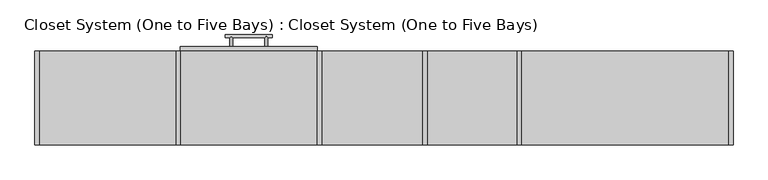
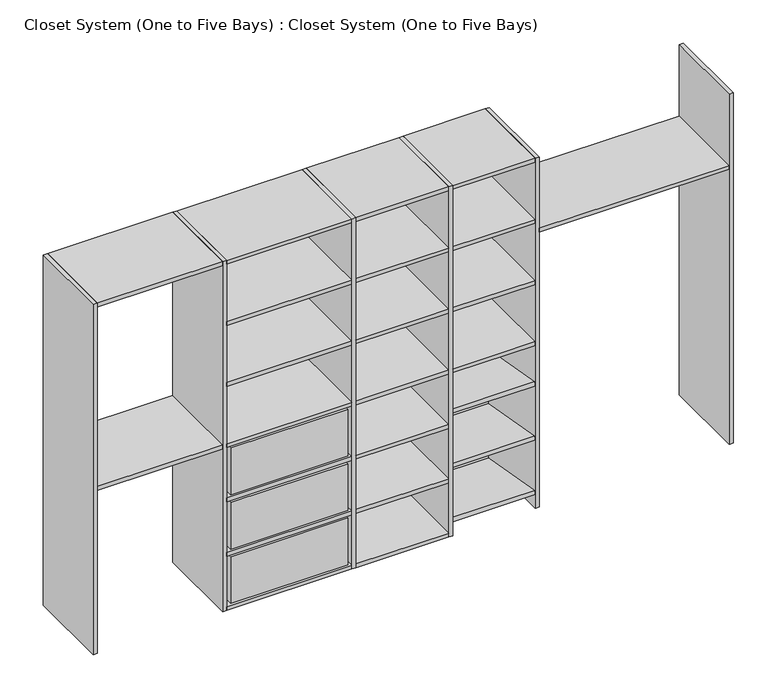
"""IFC4 building model written with IfcOpenShell, lengths in millimetres: furniture geometry, Closet System (One to Five Bays) : Closet System (One to Five Bays)."""

from ifc_helpers import new_model, si_unit, point, frame, frame_2d, origin, place, context, project, spatial, polyline, circle_curve, ellipse_curve, trimmed, segment, composite_curve, outline, extrude, faceted_brep, source, transform, mapped, element, save
from ifc_brep_helpers import plane_surface, cylinder_surface, advanced_brep


def closet_system_one_to_five_bays_closet_system_one_to_five_eccb5896(model_context):
    return source(origin(), model_context, "Body", "SolidModel", [
        extrude(outline(polyline([(3016.25, 0.0), (2997.2, 0.0), (2997.2, 406.4), (3016.25, 406.4), (3016.25, 0.0)])), frame((0.0, 0.0, 82.55), z_axis=(0.0, 0.0, 1.0), x_axis=(1.0, 0.0, 0.0)), (0.0, 0.0, 1.0), 1746.25),
        extrude(outline(polyline([(2101.85, 0.0), (2082.8, 0.0), (2082.8, 406.4), (2101.85, 406.4), (2101.85, 0.0)])), frame((0.0, 0.0, 82.55), z_axis=(0.0, 0.0, 1.0), x_axis=(1.0, 0.0, 0.0)), (0.0, 0.0, 1.0), 1746.25),
        extrude(outline(polyline([(1695.45, 0.0), (1676.4, 0.0), (1676.4, 406.4), (1695.45, 406.4), (1695.45, 0.0)])), frame((0.0, 0.0, 82.55), z_axis=(0.0, 0.0, 1.0), x_axis=(1.0, 0.0, 0.0)), (0.0, 0.0, 1.0), 1746.25),
        extrude(outline(polyline([(1238.25, 0.0), (1219.2, 0.0), (1219.2, 406.4), (1238.25, 406.4), (1238.25, 0.0)])), frame((0.0, 0.0, 82.55), z_axis=(0.0, 0.0, 1.0), x_axis=(1.0, 0.0, 0.0)), (0.0, 0.0, 1.0), 1746.25),
        extrude(outline(polyline([(628.65, 0.0), (609.6, 0.0), (609.6, 406.4), (628.65, 406.4), (628.65, 0.0)])), frame((0.0, 0.0, 82.55), z_axis=(0.0, 0.0, 1.0), x_axis=(1.0, 0.0, 0.0)), (0.0, 0.0, 1.0), 1746.25),
        extrude(outline(polyline([(19.05, 0.0), (0.0, 0.0), (0.0, 406.4), (19.05, 406.4), (19.05, 0.0)])), frame((0.0, 0.0, 82.55), z_axis=(0.0, 0.0, 1.0), x_axis=(1.0, 0.0, 0.0)), (0.0, 0.0, 1.0), 1746.25),
        faceted_brep([(1695.45, 0.0, 1200.15), (2082.8, 0.0, 1200.15), (2082.8, 0.0, 1219.2), (1695.45, 0.0, 1219.2), (1695.45, 387.35, 1200.15), (1695.45, 406.4, 1200.15), (2082.8, 406.4, 1200.15), (2082.8, 387.35, 1200.15), (1695.45, 387.35, 1219.2), (1695.45, 406.4, 1219.2), (2082.8, 406.4, 1219.2), (2082.8, 387.35, 1219.2)], [[[0, 1, 2, 3]], [[0, 4, 5, 6, 7, 1]], [[5, 4, 0, 3, 8, 9]], [[1, 7, 6, 10, 11, 2]], [[9, 10, 6, 5]], [[9, 8, 3, 2, 11, 10]]]),
        faceted_brep([(1695.45, 406.4, 1504.95), (1695.45, 387.35, 1504.95), (1695.45, 0.0, 1504.95), (1695.45, 0.0, 1524.0), (1695.45, 387.35, 1524.0), (1695.45, 406.4, 1524.0), (2082.8, 0.0, 1504.95), (2082.8, 387.35, 1504.95), (2082.8, 406.4, 1504.95), (2082.8, 406.4, 1524.0), (2082.8, 387.35, 1524.0), (2082.8, 0.0, 1524.0)], [[[0, 1, 2, 3, 4, 5]], [[6, 7, 8, 9, 10, 11]], [[2, 1, 0, 8, 7, 6]], [[5, 9, 8, 0]], [[5, 4, 3, 11, 10, 9]], [[2, 6, 11, 3]]]),
        extrude(outline(polyline([(406.4, 686.951959), (395.3733407, 624.4166667), (0.0, 694.1316541), (3.3079978, 712.8922418), (379.9207508, 646.4852521), (387.6394123, 690.2599568), (406.4, 686.951959)])), frame((1695.45, 0.0, 0.0), z_axis=(1.0, 0.0, 0.0), x_axis=(0.0, 1.0, 0.0)), (0.0, 0.0, 1.0), 387.35),
        extrude(outline(polyline([(406.4, 416.0186256), (395.3733407, 353.4833333), (0.0, 423.1983208), (3.3079978, 441.9589084), (379.9207508, 375.5519188), (387.6394123, 419.3266234), (406.4, 416.0186256)])), frame((1695.45, 0.0, 0.0), z_axis=(1.0, 0.0, 0.0), x_axis=(0.0, 1.0, 0.0)), (0.0, 0.0, 1.0), 387.35),
        extrude(outline(polyline([(406.4, 145.0852923), (395.3733407, 82.55), (0.0, 152.2649874), (3.3079978, 171.0255751), (379.9207508, 104.6185855), (387.6394123, 148.3932901), (406.4, 145.0852923)])), frame((1695.45, 0.0, 0.0), z_axis=(1.0, 0.0, 0.0), x_axis=(0.0, 1.0, 0.0)), (0.0, 0.0, 1.0), 387.35),
        extrude(outline(polyline([(2082.8, 406.4), (2082.8, 0.0), (1695.45, 0.0), (1695.45, 406.4), (2082.8, 406.4)])), frame((0.0, 0.0, 895.35), z_axis=(0.0, 0.0, 1.0), x_axis=(1.0, 0.0, 0.0)), (0.0, 0.0, 1.0), 19.05),
        extrude(outline(polyline([(2082.8, 406.4), (2082.8, 0.0), (1695.45, 0.0), (1695.45, 406.4), (2082.8, 406.4)])), frame((0.0, 0.0, 1809.75), z_axis=(0.0, 0.0, 1.0), x_axis=(1.0, 0.0, 0.0)), (0.0, 0.0, 1.0), 19.05),
        extrude(outline(composite_curve([segment(trimmed(circle_curve(frame_2d((304.8, 1384.3)), 12.7), [point((317.5, 1384.3))], [point((292.1, 1384.3))], False, "CARTESIAN"), True, "CONTINUOUS"), segment(trimmed(circle_curve(frame_2d((304.8, 1384.3)), 12.7), [point((292.1, 1384.3))], [point((317.5, 1384.3))], False, "CARTESIAN"), True, "CONTINUOUS")], self_intersect=False)), frame((2101.85, 0.0, 0.0), z_axis=(1.0, 0.0, 0.0), x_axis=(0.0, 1.0, 0.0)), (0.0, 0.0, 1.0), 895.35),
        extrude(outline(polyline([(2997.2, 406.4), (2997.2, 0.0), (2101.85, 0.0), (2101.85, 406.4), (2997.2, 406.4)])), frame((0.0, 0.0, 1454.15), z_axis=(0.0, 0.0, 1.0), x_axis=(1.0, 0.0, 0.0)), (0.0, 0.0, 1.0), 19.05),
        faceted_brep([(1238.25, 406.4, 1200.15), (1238.25, 387.35, 1200.15), (1238.25, 0.0, 1200.15), (1238.25, 0.0, 1219.2), (1238.25, 387.35, 1219.2), (1238.25, 406.4, 1219.2), (1676.4, 0.0, 1200.15), (1676.4, 387.35, 1200.15), (1676.4, 406.4, 1200.15), (1676.4, 406.4, 1219.2), (1676.4, 387.35, 1219.2), (1676.4, 0.0, 1219.2)], [[[0, 1, 2, 3, 4, 5]], [[6, 7, 8, 9, 10, 11]], [[2, 1, 0, 8, 7, 6]], [[5, 9, 8, 0]], [[5, 4, 3, 11, 10, 9]], [[2, 6, 11, 3]]]),
        faceted_brep([(1238.25, 406.4, 1504.95), (1238.25, 387.35, 1504.95), (1238.25, 0.0, 1504.95), (1238.25, 0.0, 1524.0), (1238.25, 387.35, 1524.0), (1238.25, 406.4, 1524.0), (1676.4, 0.0, 1504.95), (1676.4, 387.35, 1504.95), (1676.4, 406.4, 1504.95), (1676.4, 406.4, 1524.0), (1676.4, 387.35, 1524.0), (1676.4, 0.0, 1524.0)], [[[0, 1, 2, 3, 4, 5]], [[6, 7, 8, 9, 10, 11]], [[2, 1, 0, 8, 7, 6]], [[5, 9, 8, 0]], [[5, 4, 3, 11, 10, 9]], [[2, 6, 11, 3]]]),
        faceted_brep([(1238.25, 406.4, 624.4166667), (1238.25, 387.35, 624.4166667), (1238.25, 0.0, 624.4166667), (1238.25, 0.0, 643.4666667), (1238.25, 387.35, 643.4666667), (1238.25, 406.4, 643.4666667), (1676.4, 0.0, 624.4166667), (1676.4, 387.35, 624.4166667), (1676.4, 406.4, 624.4166667), (1676.4, 406.4, 643.4666667), (1676.4, 387.35, 643.4666667), (1676.4, 0.0, 643.4666667)], [[[0, 1, 2, 3, 4, 5]], [[6, 7, 8, 9, 10, 11]], [[2, 1, 0, 8, 7, 6]], [[5, 9, 8, 0]], [[5, 4, 3, 11, 10, 9]], [[2, 6, 11, 3]]]),
        faceted_brep([(1238.25, 406.4, 353.4833333), (1238.25, 387.35, 353.4833333), (1238.25, 0.0, 353.4833333), (1238.25, 0.0, 372.5333333), (1238.25, 387.35, 372.5333333), (1238.25, 406.4, 372.5333333), (1676.4, 0.0, 372.5333333), (1676.4, 387.35, 372.5333333), (1676.4, 406.4, 372.5333333), (1676.4, 0.0, 353.4833333), (1676.4, 387.35, 353.4833333), (1676.4, 406.4, 353.4833333)], [[[0, 1, 2, 3, 4, 5]], [[5, 4, 3, 6, 7, 8]], [[2, 9, 6, 3]], [[9, 10, 11, 8, 7, 6]], [[2, 1, 0, 11, 10, 9]], [[5, 8, 11, 0]]]),
        faceted_brep([(1238.25, 406.4, 82.55), (1238.25, 387.35, 82.55), (1238.25, 0.0, 82.55), (1238.25, 0.0, 101.6), (1238.25, 387.35, 101.6), (1238.25, 406.4, 101.6), (1676.4, 0.0, 82.55), (1676.4, 387.35, 82.55), (1676.4, 406.4, 82.55), (1676.4, 406.4, 101.6), (1676.4, 387.35, 101.6), (1676.4, 0.0, 101.6)], [[[0, 1, 2, 3, 4, 5]], [[6, 7, 8, 9, 10, 11]], [[2, 1, 0, 8, 7, 6]], [[5, 9, 8, 0]], [[5, 4, 3, 11, 10, 9]], [[2, 6, 11, 3]]]),
        extrude(outline(polyline([(1676.4, 406.4), (1676.4, 0.0), (1238.25, 0.0), (1238.25, 406.4), (1676.4, 406.4)])), frame((0.0, 0.0, 895.35), z_axis=(0.0, 0.0, 1.0), x_axis=(1.0, 0.0, 0.0)), (0.0, 0.0, 1.0), 19.05),
        extrude(outline(polyline([(1676.4, 406.4), (1676.4, 0.0), (1238.25, 0.0), (1238.25, 406.4), (1676.4, 406.4)])), frame((0.0, 0.0, 1809.75), z_axis=(0.0, 0.0, 1.0), x_axis=(1.0, 0.0, 0.0)), (0.0, 0.0, 1.0), 19.05),
        advanced_brep(
        [(1006.475, 425.45, 769.4083333), (993.775, 425.45, 769.4083333), (1006.475, 463.55, 769.4083333), (1000.125, 469.9, 775.7583333), (993.775, 463.55, 769.4083333), (1000.125, 469.9, 763.0583333), (1025.525, 463.55, 769.4083333), (1025.525, 476.25, 769.4083333), (822.325, 463.55, 769.4083333), (822.325, 476.25, 769.4083333), (841.375, 463.55, 769.4083333), (847.725, 469.9, 775.7583333), (854.075, 463.55, 769.4083333), (847.725, 469.9, 763.0583333), (841.375, 425.45, 769.4083333), (854.075, 425.45, 769.4083333)],
        [
            (0, 1, circle_curve(frame((1000.125, 425.45, 769.4083333), z_axis=(0.0, -1.0, 0.0), x_axis=(-1.0, 0.0, 0.0)), 6.35)),
            (1, 0, circle_curve(frame((1000.125, 425.45, 769.4083333), z_axis=(0.0, -1.0, 0.0), x_axis=(-1.0, 0.0, 0.0)), 6.35)),
            (0, 2),
            (2, 3, ellipse_curve(frame((1000.125, 469.9, 769.4083333), z_axis=(-0.7071067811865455, -0.7071067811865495, 0.0), x_axis=(-0.7071067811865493, 0.7071067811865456, 0.0)), 8.9802561, 6.35)),
            (3, 4, ellipse_curve(frame((1000.125, 469.9, 769.4083333), z_axis=(0.7071067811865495, -0.7071067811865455, 0.0), x_axis=(0.7071067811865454, 0.7071067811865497, 0.0)), 8.9802561, 6.35)),
            (4, 1),
            (4, 5, ellipse_curve(frame((1000.125, 469.9, 769.4083333), z_axis=(0.7071067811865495, -0.7071067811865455, 0.0), x_axis=(0.7071067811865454, 0.7071067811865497, 0.0)), 8.9802561, 6.35)),
            (5, 2, ellipse_curve(frame((1000.125, 469.9, 769.4083333), z_axis=(-0.7071067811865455, -0.7071067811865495, 0.0), x_axis=(-0.7071067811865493, 0.7071067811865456, 0.0)), 8.9802561, 6.35)),
            (6, 7, circle_curve(frame((1025.525, 469.9, 769.4083333), z_axis=(1.0, 0.0, 0.0), x_axis=(0.0, 1.0, 0.0)), 6.35)),
            (7, 6, circle_curve(frame((1025.525, 469.9, 769.4083333), z_axis=(1.0, 0.0, 0.0), x_axis=(0.0, 1.0, 0.0)), 6.35)),
            (8, 9, circle_curve(frame((822.325, 469.9, 769.4083333), z_axis=(-1.0, 0.0, 0.0), x_axis=(0.0, 1.0, 0.0)), 6.35)),
            (9, 8, circle_curve(frame((822.325, 469.9, 769.4083333), z_axis=(-1.0, 0.0, 0.0), x_axis=(0.0, 1.0, 0.0)), 6.35)),
            (7, 9),
            (8, 10),
            (10, 11, ellipse_curve(frame((847.725, 469.9, 769.4083333), z_axis=(-0.7071067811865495, 0.7071067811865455, 0.0), x_axis=(0.7071067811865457, 0.7071067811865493, 0.0)), 8.9802561, 6.35)),
            (11, 12, ellipse_curve(frame((847.725, 469.9, 769.4083333), z_axis=(0.7071067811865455, 0.7071067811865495, 0.0), x_axis=(0.7071067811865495, -0.7071067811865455, 0.0)), 8.9802561, 6.35)),
            (12, 4),
            (2, 6),
            (12, 13, ellipse_curve(frame((847.725, 469.9, 769.4083333), z_axis=(0.7071067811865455, 0.7071067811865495, 0.0), x_axis=(0.7071067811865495, -0.7071067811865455, 0.0)), 8.9802561, 6.35)),
            (13, 10, ellipse_curve(frame((847.725, 469.9, 769.4083333), z_axis=(-0.7071067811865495, 0.7071067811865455, 0.0), x_axis=(0.7071067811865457, 0.7071067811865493, 0.0)), 8.9802561, 6.35)),
            (14, 15, circle_curve(frame((847.725, 425.45, 769.4083333), z_axis=(0.0, -1.0, 0.0), x_axis=(1.0, 0.0, 0.0)), 6.35)),
            (15, 14, circle_curve(frame((847.725, 425.45, 769.4083333), z_axis=(0.0, -1.0, 0.0), x_axis=(1.0, 0.0, 0.0)), 6.35)),
            (15, 12),
            (10, 14),
        ],
        [
            plane_surface(frame((1000.125, 425.45, 769.4083333), z_axis=(0.0, -1.0, 0.0), x_axis=(0.0, 0.0, 1.0))),
            cylinder_surface(frame((1000.125, 469.9, 769.4083333), z_axis=(0.0, 1.0, 0.0), x_axis=(-1.0, 0.0, 0.0)), 6.35),
            plane_surface(frame((1025.525, 469.9, 769.4083333), z_axis=(1.0, 0.0, 0.0), x_axis=(0.0, 0.0, 1.0))),
            plane_surface(frame((822.325, 469.9, 769.4083333), z_axis=(-1.0, 0.0, 0.0), x_axis=(0.0, 0.0, 1.0))),
            cylinder_surface(frame((1025.525, 469.9, 769.4083333), z_axis=(1.0, 0.0, 0.0), x_axis=(0.0, 1.0, 0.0)), 6.35),
            plane_surface(frame((847.725, 425.45, 769.4083333), z_axis=(0.0, -1.0, 0.0), x_axis=(0.0, 0.0, 1.0))),
            cylinder_surface(frame((847.725, 469.9, 769.4083333), z_axis=(0.0, 1.0, 0.0), x_axis=(1.0, 0.0, 0.0)), 6.35),
        ],
        [
            (0, [[1, 2]]),
            (1, [[3, 4, 5, 6, -1]]),
            (1, [[-6, 7, 8, -3, -2]]),
            (2, [[9, 10]]),
            (3, [[11, 12]]),
            (4, [[13, -11, 14, 15, 16, 17, -5, -4, 18, -10]]),
            (4, [[-18, -8, -7, -17, 19, 20, -14, -12, -13, -9]]),
            (5, [[21, 22]]),
            (6, [[23, -16, -15, 24, -22]]),
            (6, [[-24, -20, -19, -23, -21]]),
        ],
    ),
        extrude(outline(polyline([(1219.2, 425.45), (1219.2, 406.4), (628.65, 406.4), (628.65, 425.45), (1219.2, 425.45)])), frame((0.0, 0.0, 633.9416667), z_axis=(0.0, 0.0, 1.0), x_axis=(1.0, 0.0, 0.0)), (0.0, 0.0, 1.0), 270.9333333),
        faceted_brep([(1200.15, 0.0, 885.825), (1200.15, 406.4, 885.825), (647.7, 406.4, 885.825), (647.7, 0.0, 885.825), (1181.1, 19.05, 885.825), (666.75, 19.05, 885.825), (666.75, 387.35, 885.825), (1181.1, 387.35, 885.825), (1200.15, 0.0, 652.9916667), (647.7, 0.0, 652.9916667), (647.7, 406.4, 652.9916667), (1200.15, 406.4, 652.9916667), (1181.1, 387.35, 662.5166667), (1181.1, 19.05, 662.5166667), (666.75, 387.35, 662.5166667), (666.75, 19.05, 662.5166667)], [[[0, 1, 2, 3], [4, 5, 6, 7]], [[8, 9, 10, 11]], [[3, 9, 8, 0]], [[2, 10, 9, 3]], [[1, 11, 10, 2]], [[0, 8, 11, 1]], [[7, 12, 13, 4]], [[6, 14, 12, 7]], [[5, 15, 14, 6]], [[4, 13, 15, 5]], [[12, 14, 15, 13]]]),
        advanced_brep(
        [(1006.475, 425.45, 498.475), (993.775, 425.45, 498.475), (1006.475, 463.55, 498.475), (1000.125, 469.9, 504.825), (993.775, 463.55, 498.475), (1000.125, 469.9, 492.125), (1025.525, 463.55, 498.475), (1025.525, 476.25, 498.475), (822.325, 463.55, 498.475), (822.325, 476.25, 498.475), (841.375, 463.55, 498.475), (847.725, 469.9, 504.825), (854.075, 463.55, 498.475), (847.725, 469.9, 492.125), (841.375, 425.45, 498.475), (854.075, 425.45, 498.475)],
        [
            (0, 1, circle_curve(frame((1000.125, 425.45, 498.475), z_axis=(0.0, -1.0, 0.0), x_axis=(-1.0, 0.0, 0.0)), 6.35)),
            (1, 0, circle_curve(frame((1000.125, 425.45, 498.475), z_axis=(0.0, -1.0, 0.0), x_axis=(-1.0, 0.0, 0.0)), 6.35)),
            (0, 2),
            (2, 3, ellipse_curve(frame((1000.125, 469.9, 498.475), z_axis=(-0.7071067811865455, -0.7071067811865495, 0.0), x_axis=(-0.7071067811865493, 0.7071067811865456, 0.0)), 8.9802561, 6.35)),
            (3, 4, ellipse_curve(frame((1000.125, 469.9, 498.475), z_axis=(0.7071067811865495, -0.7071067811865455, 0.0), x_axis=(0.7071067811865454, 0.7071067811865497, 0.0)), 8.9802561, 6.35)),
            (4, 1),
            (4, 5, ellipse_curve(frame((1000.125, 469.9, 498.475), z_axis=(0.7071067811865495, -0.7071067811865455, 0.0), x_axis=(0.7071067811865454, 0.7071067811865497, 0.0)), 8.9802561, 6.35)),
            (5, 2, ellipse_curve(frame((1000.125, 469.9, 498.475), z_axis=(-0.7071067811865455, -0.7071067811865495, 0.0), x_axis=(-0.7071067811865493, 0.7071067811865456, 0.0)), 8.9802561, 6.35)),
            (6, 7, circle_curve(frame((1025.525, 469.9, 498.475), z_axis=(1.0, 0.0, 0.0), x_axis=(0.0, 1.0, 0.0)), 6.35)),
            (7, 6, circle_curve(frame((1025.525, 469.9, 498.475), z_axis=(1.0, 0.0, 0.0), x_axis=(0.0, 1.0, 0.0)), 6.35)),
            (8, 9, circle_curve(frame((822.325, 469.9, 498.475), z_axis=(-1.0, 0.0, 0.0), x_axis=(0.0, 1.0, 0.0)), 6.35)),
            (9, 8, circle_curve(frame((822.325, 469.9, 498.475), z_axis=(-1.0, 0.0, 0.0), x_axis=(0.0, 1.0, 0.0)), 6.35)),
            (7, 9),
            (8, 10),
            (10, 11, ellipse_curve(frame((847.725, 469.9, 498.475), z_axis=(-0.7071067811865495, 0.7071067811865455, 0.0), x_axis=(0.7071067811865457, 0.7071067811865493, 0.0)), 8.9802561, 6.35)),
            (11, 12, ellipse_curve(frame((847.725, 469.9, 498.475), z_axis=(0.7071067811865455, 0.7071067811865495, 0.0), x_axis=(0.7071067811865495, -0.7071067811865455, 0.0)), 8.9802561, 6.35)),
            (12, 4),
            (2, 6),
            (12, 13, ellipse_curve(frame((847.725, 469.9, 498.475), z_axis=(0.7071067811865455, 0.7071067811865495, 0.0), x_axis=(0.7071067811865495, -0.7071067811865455, 0.0)), 8.9802561, 6.35)),
            (13, 10, ellipse_curve(frame((847.725, 469.9, 498.475), z_axis=(-0.7071067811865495, 0.7071067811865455, 0.0), x_axis=(0.7071067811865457, 0.7071067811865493, 0.0)), 8.9802561, 6.35)),
            (14, 15, circle_curve(frame((847.725, 425.45, 498.475), z_axis=(0.0, -1.0, 0.0), x_axis=(1.0, 0.0, 0.0)), 6.35)),
            (15, 14, circle_curve(frame((847.725, 425.45, 498.475), z_axis=(0.0, -1.0, 0.0), x_axis=(1.0, 0.0, 0.0)), 6.35)),
            (15, 12),
            (10, 14),
        ],
        [
            plane_surface(frame((1000.125, 425.45, 498.475), z_axis=(0.0, -1.0, 0.0), x_axis=(0.0, 0.0, 1.0))),
            cylinder_surface(frame((1000.125, 469.9, 498.475), z_axis=(0.0, 1.0, 0.0), x_axis=(-1.0, 0.0, 0.0)), 6.35),
            plane_surface(frame((1025.525, 469.9, 498.475), z_axis=(1.0, 0.0, 0.0), x_axis=(0.0, 0.0, 1.0))),
            plane_surface(frame((822.325, 469.9, 498.475), z_axis=(-1.0, 0.0, 0.0), x_axis=(0.0, 0.0, 1.0))),
            cylinder_surface(frame((1025.525, 469.9, 498.475), z_axis=(1.0, 0.0, 0.0), x_axis=(0.0, 1.0, 0.0)), 6.35),
            plane_surface(frame((847.725, 425.45, 498.475), z_axis=(0.0, -1.0, 0.0), x_axis=(0.0, 0.0, 1.0))),
            cylinder_surface(frame((847.725, 469.9, 498.475), z_axis=(0.0, 1.0, 0.0), x_axis=(1.0, 0.0, 0.0)), 6.35),
        ],
        [
            (0, [[1, 2]]),
            (1, [[3, 4, 5, 6, -1]]),
            (1, [[-6, 7, 8, -3, -2]]),
            (2, [[9, 10]]),
            (3, [[11, 12]]),
            (4, [[13, -11, 14, 15, 16, 17, -5, -4, 18, -10]]),
            (4, [[-18, -8, -7, -17, 19, 20, -14, -12, -13, -9]]),
            (5, [[21, 22]]),
            (6, [[23, -16, -15, 24, -22]]),
            (6, [[-24, -20, -19, -23, -21]]),
        ],
    ),
        extrude(outline(polyline([(1219.2, 425.45), (1219.2, 406.4), (628.65, 406.4), (628.65, 425.45), (1219.2, 425.45)])), frame((0.0, 0.0, 363.0083333), z_axis=(0.0, 0.0, 1.0), x_axis=(1.0, 0.0, 0.0)), (0.0, 0.0, 1.0), 270.9333333),
        faceted_brep([(1200.15, 0.0, 614.8916667), (1200.15, 406.4, 614.8916667), (647.7, 406.4, 614.8916667), (647.7, 0.0, 614.8916667), (1181.1, 19.05, 614.8916667), (666.75, 19.05, 614.8916667), (666.75, 387.35, 614.8916667), (1181.1, 387.35, 614.8916667), (1200.15, 0.0, 382.0583333), (647.7, 0.0, 382.0583333), (647.7, 406.4, 382.0583333), (1200.15, 406.4, 382.0583333), (1181.1, 387.35, 391.5833333), (1181.1, 19.05, 391.5833333), (666.75, 387.35, 391.5833333), (666.75, 19.05, 391.5833333)], [[[0, 1, 2, 3], [4, 5, 6, 7]], [[8, 9, 10, 11]], [[3, 9, 8, 0]], [[2, 10, 9, 3]], [[1, 11, 10, 2]], [[0, 8, 11, 1]], [[7, 12, 13, 4]], [[6, 14, 12, 7]], [[5, 15, 14, 6]], [[4, 13, 15, 5]], [[12, 14, 15, 13]]]),
        advanced_brep(
        [(1006.475, 425.45, 227.5416667), (993.775, 425.45, 227.5416667), (1006.475, 463.55, 227.5416667), (1000.125, 469.9, 233.8916667), (993.775, 463.55, 227.5416667), (1000.125, 469.9, 221.1916667), (1025.525, 463.55, 227.5416667), (1025.525, 476.25, 227.5416667), (822.325, 463.55, 227.5416667), (822.325, 476.25, 227.5416667), (841.375, 463.55, 227.5416667), (847.725, 469.9, 233.8916667), (854.075, 463.55, 227.5416667), (847.725, 469.9, 221.1916667), (841.375, 425.45, 227.5416667), (854.075, 425.45, 227.5416667)],
        [
            (0, 1, circle_curve(frame((1000.125, 425.45, 227.5416667), z_axis=(0.0, -1.0, 0.0), x_axis=(-1.0, 0.0, 0.0)), 6.35)),
            (1, 0, circle_curve(frame((1000.125, 425.45, 227.5416667), z_axis=(0.0, -1.0, 0.0), x_axis=(-1.0, 0.0, 0.0)), 6.35)),
            (0, 2),
            (2, 3, ellipse_curve(frame((1000.125, 469.9, 227.5416667), z_axis=(-0.7071067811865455, -0.7071067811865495, 0.0), x_axis=(-0.7071067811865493, 0.7071067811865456, 0.0)), 8.9802561, 6.35)),
            (3, 4, ellipse_curve(frame((1000.125, 469.9, 227.5416667), z_axis=(0.7071067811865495, -0.7071067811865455, 0.0), x_axis=(0.7071067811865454, 0.7071067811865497, 0.0)), 8.9802561, 6.35)),
            (4, 1),
            (4, 5, ellipse_curve(frame((1000.125, 469.9, 227.5416667), z_axis=(0.7071067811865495, -0.7071067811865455, 0.0), x_axis=(0.7071067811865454, 0.7071067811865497, 0.0)), 8.9802561, 6.35)),
            (5, 2, ellipse_curve(frame((1000.125, 469.9, 227.5416667), z_axis=(-0.7071067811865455, -0.7071067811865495, 0.0), x_axis=(-0.7071067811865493, 0.7071067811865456, 0.0)), 8.9802561, 6.35)),
            (6, 7, circle_curve(frame((1025.525, 469.9, 227.5416667), z_axis=(1.0, 0.0, 0.0), x_axis=(0.0, 1.0, 0.0)), 6.35)),
            (7, 6, circle_curve(frame((1025.525, 469.9, 227.5416667), z_axis=(1.0, 0.0, 0.0), x_axis=(0.0, 1.0, 0.0)), 6.35)),
            (8, 9, circle_curve(frame((822.325, 469.9, 227.5416667), z_axis=(-1.0, 0.0, 0.0), x_axis=(0.0, 1.0, 0.0)), 6.35)),
            (9, 8, circle_curve(frame((822.325, 469.9, 227.5416667), z_axis=(-1.0, 0.0, 0.0), x_axis=(0.0, 1.0, 0.0)), 6.35)),
            (7, 9),
            (8, 10),
            (10, 11, ellipse_curve(frame((847.725, 469.9, 227.5416667), z_axis=(-0.7071067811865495, 0.7071067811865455, 0.0), x_axis=(0.7071067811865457, 0.7071067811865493, 0.0)), 8.9802561, 6.35)),
            (11, 12, ellipse_curve(frame((847.725, 469.9, 227.5416667), z_axis=(0.7071067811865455, 0.7071067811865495, 0.0), x_axis=(0.7071067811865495, -0.7071067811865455, 0.0)), 8.9802561, 6.35)),
            (12, 4),
            (2, 6),
            (12, 13, ellipse_curve(frame((847.725, 469.9, 227.5416667), z_axis=(0.7071067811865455, 0.7071067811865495, 0.0), x_axis=(0.7071067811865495, -0.7071067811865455, 0.0)), 8.9802561, 6.35)),
            (13, 10, ellipse_curve(frame((847.725, 469.9, 227.5416667), z_axis=(-0.7071067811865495, 0.7071067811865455, 0.0), x_axis=(0.7071067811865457, 0.7071067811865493, 0.0)), 8.9802561, 6.35)),
            (14, 15, circle_curve(frame((847.725, 425.45, 227.5416667), z_axis=(0.0, -1.0, 0.0), x_axis=(1.0, 0.0, 0.0)), 6.35)),
            (15, 14, circle_curve(frame((847.725, 425.45, 227.5416667), z_axis=(0.0, -1.0, 0.0), x_axis=(1.0, 0.0, 0.0)), 6.35)),
            (15, 12),
            (10, 14),
        ],
        [
            plane_surface(frame((1000.125, 425.45, 227.5416667), z_axis=(0.0, -1.0, 0.0), x_axis=(0.0, 0.0, 1.0))),
            cylinder_surface(frame((1000.125, 469.9, 227.5416667), z_axis=(0.0, 1.0, 0.0), x_axis=(-1.0, 0.0, 0.0)), 6.35),
            plane_surface(frame((1025.525, 469.9, 227.5416667), z_axis=(1.0, 0.0, 0.0), x_axis=(0.0, 0.0, 1.0))),
            plane_surface(frame((822.325, 469.9, 227.5416667), z_axis=(-1.0, 0.0, 0.0), x_axis=(0.0, 0.0, 1.0))),
            cylinder_surface(frame((1025.525, 469.9, 227.5416667), z_axis=(1.0, 0.0, 0.0), x_axis=(0.0, 1.0, 0.0)), 6.35),
            plane_surface(frame((847.725, 425.45, 227.5416667), z_axis=(0.0, -1.0, 0.0), x_axis=(0.0, 0.0, 1.0))),
            cylinder_surface(frame((847.725, 469.9, 227.5416667), z_axis=(0.0, 1.0, 0.0), x_axis=(1.0, 0.0, 0.0)), 6.35),
        ],
        [
            (0, [[1, 2]]),
            (1, [[3, 4, 5, 6, -1]]),
            (1, [[-6, 7, 8, -3, -2]]),
            (2, [[9, 10]]),
            (3, [[11, 12]]),
            (4, [[13, -11, 14, 15, 16, 17, -5, -4, 18, -10]]),
            (4, [[-18, -8, -7, -17, 19, 20, -14, -12, -13, -9]]),
            (5, [[21, 22]]),
            (6, [[23, -16, -15, 24, -22]]),
            (6, [[-24, -20, -19, -23, -21]]),
        ],
    ),
        extrude(outline(polyline([(1219.2, 425.45), (1219.2, 406.4), (628.65, 406.4), (628.65, 425.45), (1219.2, 425.45)])), frame((0.0, 0.0, 92.075), z_axis=(0.0, 0.0, 1.0), x_axis=(1.0, 0.0, 0.0)), (0.0, 0.0, 1.0), 270.9333333),
        faceted_brep([(1200.15, 0.0, 343.9583333), (1200.15, 406.4, 343.9583333), (647.7, 406.4, 343.9583333), (647.7, 0.0, 343.9583333), (1181.1, 19.05, 343.9583333), (666.75, 19.05, 343.9583333), (666.75, 387.35, 343.9583333), (1181.1, 387.35, 343.9583333), (1200.15, 0.0, 111.125), (647.7, 0.0, 111.125), (647.7, 406.4, 111.125), (1200.15, 406.4, 111.125), (1181.1, 387.35, 120.65), (1181.1, 19.05, 120.65), (666.75, 387.35, 120.65), (666.75, 19.05, 120.65)], [[[0, 1, 2, 3], [4, 5, 6, 7]], [[8, 9, 10, 11]], [[3, 9, 8, 0]], [[2, 10, 9, 3]], [[1, 11, 10, 2]], [[0, 8, 11, 1]], [[7, 12, 13, 4]], [[6, 14, 12, 7]], [[5, 15, 14, 6]], [[4, 13, 15, 5]], [[12, 14, 15, 13]]]),
        faceted_brep([(628.65, 406.4, 1200.15), (628.65, 387.35, 1200.15), (628.65, 0.0, 1200.15), (628.65, 0.0, 1219.2), (628.65, 387.35, 1219.2), (628.65, 406.4, 1219.2), (1219.2, 0.0, 1200.15), (1219.2, 387.35, 1200.15), (1219.2, 406.4, 1200.15), (1219.2, 406.4, 1219.2), (1219.2, 387.35, 1219.2), (1219.2, 0.0, 1219.2)], [[[0, 1, 2, 3, 4, 5]], [[6, 7, 8, 9, 10, 11]], [[2, 1, 0, 8, 7, 6]], [[5, 9, 8, 0]], [[5, 4, 3, 11, 10, 9]], [[2, 6, 11, 3]]]),
        faceted_brep([(628.65, 406.4, 1504.95), (628.65, 387.35, 1504.95), (628.65, 0.0, 1504.95), (628.65, 0.0, 1524.0), (628.65, 387.35, 1524.0), (628.65, 406.4, 1524.0), (1219.2, 0.0, 1504.95), (1219.2, 387.35, 1504.95), (1219.2, 406.4, 1504.95), (1219.2, 406.4, 1524.0), (1219.2, 387.35, 1524.0), (1219.2, 0.0, 1524.0)], [[[0, 1, 2, 3, 4, 5]], [[6, 7, 8, 9, 10, 11]], [[2, 1, 0, 8, 7, 6]], [[5, 9, 8, 0]], [[5, 4, 3, 11, 10, 9]], [[2, 6, 11, 3]]]),
        faceted_brep([(628.65, 406.4, 624.4166667), (628.65, 387.35, 624.4166667), (628.65, 0.0, 624.4166667), (628.65, 0.0, 643.4666667), (628.65, 387.35, 643.4666667), (628.65, 406.4, 643.4666667), (1219.2, 0.0, 624.4166667), (1219.2, 387.35, 624.4166667), (1219.2, 406.4, 624.4166667), (1219.2, 406.4, 643.4666667), (1219.2, 387.35, 643.4666667), (1219.2, 0.0, 643.4666667)], [[[0, 1, 2, 3, 4, 5]], [[6, 7, 8, 9, 10, 11]], [[2, 1, 0, 8, 7, 6]], [[5, 9, 8, 0]], [[5, 4, 3, 11, 10, 9]], [[2, 6, 11, 3]]]),
        faceted_brep([(628.65, 406.4, 353.4833333), (628.65, 387.35, 353.4833333), (628.65, 0.0, 353.4833333), (628.65, 0.0, 372.5333333), (628.65, 387.35, 372.5333333), (628.65, 406.4, 372.5333333), (1219.2, 0.0, 353.4833333), (1219.2, 387.35, 353.4833333), (1219.2, 406.4, 353.4833333), (1219.2, 406.4, 372.5333333), (1219.2, 387.35, 372.5333333), (1219.2, 0.0, 372.5333333)], [[[0, 1, 2, 3, 4, 5]], [[6, 7, 8, 9, 10, 11]], [[2, 1, 0, 8, 7, 6]], [[5, 9, 8, 0]], [[5, 4, 3, 11, 10, 9]], [[2, 6, 11, 3]]]),
        faceted_brep([(628.65, 406.4, 82.55), (628.65, 387.35, 82.55), (628.65, 0.0, 82.55), (628.65, 0.0, 101.6), (628.65, 387.35, 101.6), (628.65, 406.4, 101.6), (1219.2, 0.0, 82.55), (1219.2, 387.35, 82.55), (1219.2, 406.4, 82.55), (1219.2, 406.4, 101.6), (1219.2, 387.35, 101.6), (1219.2, 0.0, 101.6)], [[[0, 1, 2, 3, 4, 5]], [[6, 7, 8, 9, 10, 11]], [[2, 1, 0, 8, 7, 6]], [[5, 9, 8, 0]], [[5, 4, 3, 11, 10, 9]], [[2, 6, 11, 3]]]),
        extrude(outline(polyline([(1219.2, 406.4), (1219.2, 0.0), (628.65, 0.0), (628.65, 406.4), (1219.2, 406.4)])), frame((0.0, 0.0, 895.35), z_axis=(0.0, 0.0, 1.0), x_axis=(1.0, 0.0, 0.0)), (0.0, 0.0, 1.0), 19.05),
        extrude(outline(polyline([(1219.2, 406.4), (1219.2, 0.0), (628.65, 0.0), (628.65, 406.4), (1219.2, 406.4)])), frame((0.0, 0.0, 1809.75), z_axis=(0.0, 0.0, 1.0), x_axis=(1.0, 0.0, 0.0)), (0.0, 0.0, 1.0), 19.05),
        extrude(outline(composite_curve([segment(trimmed(circle_curve(frame_2d((304.8, 1739.9)), 12.7), [point((317.5, 1739.9))], [point((292.1, 1739.9))], False, "CARTESIAN"), True, "CONTINUOUS"), segment(trimmed(circle_curve(frame_2d((304.8, 1739.9)), 12.7), [point((292.1, 1739.9))], [point((317.5, 1739.9))], False, "CARTESIAN"), True, "CONTINUOUS")], self_intersect=False)), frame((19.05, 0.0, 0.0), z_axis=(1.0, 0.0, 0.0), x_axis=(0.0, 1.0, 0.0)), (0.0, 0.0, 1.0), 590.55),
        extrude(outline(composite_curve([segment(trimmed(circle_curve(frame_2d((304.8, 825.5)), 12.7), [point((317.5, 825.5))], [point((292.1, 825.5))], False, "CARTESIAN"), True, "CONTINUOUS"), segment(trimmed(circle_curve(frame_2d((304.8, 825.5)), 12.7), [point((292.1, 825.5))], [point((317.5, 825.5))], False, "CARTESIAN"), True, "CONTINUOUS")], self_intersect=False)), frame((19.05, 0.0, 0.0), z_axis=(1.0, 0.0, 0.0), x_axis=(0.0, 1.0, 0.0)), (0.0, 0.0, 1.0), 590.55),
        extrude(outline(polyline([(609.6, 406.4), (609.6, 0.0), (19.05, 0.0), (19.05, 406.4), (609.6, 406.4)])), frame((0.0, 0.0, 895.35), z_axis=(0.0, 0.0, 1.0), x_axis=(1.0, 0.0, 0.0)), (0.0, 0.0, 1.0), 19.05),
        extrude(outline(polyline([(609.6, 406.4), (609.6, 0.0), (19.05, 0.0), (19.05, 406.4), (609.6, 406.4)])), frame((0.0, 0.0, 1809.75), z_axis=(0.0, 0.0, 1.0), x_axis=(1.0, 0.0, 0.0)), (0.0, 0.0, 1.0), 19.05),
    ])


if __name__ == "__main__":
    model = new_model("IFC4")
    model_context = context("Model", 3, world=origin())
    ifc_project = project(units=[si_unit("LENGTHUNIT", "METRE", prefix="MILLI")], contexts=[model_context])
    site = spatial("IfcSite", under=ifc_project)
    building = spatial("IfcBuilding", under=site)
    placement = place(None, origin())
    closet_system_one_to_five_bays_closet_system_one_to_five_shape = closet_system_one_to_five_bays_closet_system_one_to_five_eccb5896(model_context)
    element("IfcFurniture", 1, ObjectType="Closet System (One to Five Bays) : Closet System (One to Five Bays)", at=placement, inside=building, context=model_context, shape_type="MappedRepresentation", body=[
        mapped(closet_system_one_to_five_bays_closet_system_one_to_five_shape, transform((0.0, 0.0, 0.0), x_axis=(1.0, 0.0, 0.0), y_axis=(0.0, 1.0, 0.0), z_axis=(0.0, 0.0, 1.0))),
    ])
    save(model, "model.ifc")
